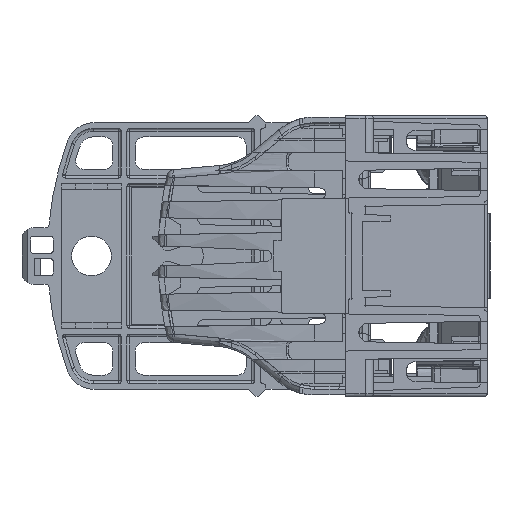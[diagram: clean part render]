
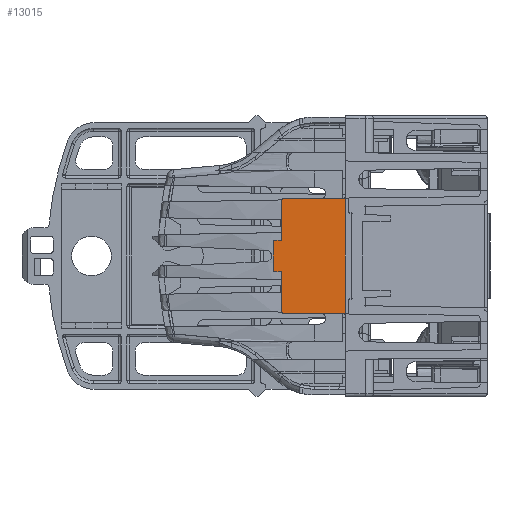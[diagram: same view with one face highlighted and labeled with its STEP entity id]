
A CAD part, left-side view. The second image highlights one B-rep face of the part: STEP entity #13015.
In plain terms, the highlighted planar face has unit normal (-1, 0, 0).
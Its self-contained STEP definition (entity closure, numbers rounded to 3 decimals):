
#13015 = ADVANCED_FACE ( 'NONE', ( #177543 ), #177671, .T. ) ;
#31062 = EDGE_CURVE ( 'NONE', #74775, #74731, #266365, .T. ) ;
#42917 = LINE ( 'NONE', #42919, #204172 ) ;
#42919 = CARTESIAN_POINT ( 'NONE',  ( -279.5, 22.4, 0. ) ) ;
#42920 = DIRECTION ( 'NONE',  ( 0., 0., 1. ) ) ;
#64866 = ORIENTED_EDGE ( 'NONE', *, *, #267993, .F. ) ;
#65138 = ORIENTED_EDGE ( 'NONE', *, *, #267975, .F. ) ;
#65759 = ORIENTED_EDGE ( 'NONE', *, *, #31062, .F. ) ;
#65797 = ORIENTED_EDGE ( 'NONE', *, *, #267627, .F. ) ;
#65983 = ORIENTED_EDGE ( 'NONE', *, *, #267476, .T. ) ;
#66063 = ORIENTED_EDGE ( 'NONE', *, *, #267472, .F. ) ;
#66291 = ORIENTED_EDGE ( 'NONE', *, *, #267540, .T. ) ;
#66321 = ORIENTED_EDGE ( 'NONE', *, *, #264284, .F. ) ;
#66332 = ORIENTED_EDGE ( 'NONE', *, *, #267685, .T. ) ;
#66436 = ORIENTED_EDGE ( 'NONE', *, *, #267664, .F. ) ;
#66480 = ORIENTED_EDGE ( 'NONE', *, *, #267450, .T. ) ;
#66544 = ORIENTED_EDGE ( 'NONE', *, *, #267440, .T. ) ;
#66676 = ORIENTED_EDGE ( 'NONE', *, *, #267429, .T. ) ;
#66722 = ORIENTED_EDGE ( 'NONE', *, *, #267592, .F. ) ;
#66779 = ORIENTED_EDGE ( 'NONE', *, *, #267466, .T. ) ;
#74731 = VERTEX_POINT ( 'NONE', #97498 ) ;
#74775 = VERTEX_POINT ( 'NONE', #97618 ) ;
#75643 = VERTEX_POINT ( 'NONE', #99967 ) ;
#75656 = VERTEX_POINT ( 'NONE', #99994 ) ;
#97498 = CARTESIAN_POINT ( 'NONE',  ( -279.5, 0., -20.896 ) ) ;
#97618 = CARTESIAN_POINT ( 'NONE',  ( -279.5, 0., 20.896 ) ) ;
#99967 = CARTESIAN_POINT ( 'NONE',  ( -279.5, 22.4, -6. ) ) ;
#99994 = CARTESIAN_POINT ( 'NONE',  ( -279.5, 22.4, -19.709 ) ) ;
#126498 = CARTESIAN_POINT ( 'NONE',  ( -279.5, 24.9, -5. ) ) ;
#126500 = DIRECTION ( 'NONE',  ( -1., 0., 0. ) ) ;
#126501 = DIRECTION ( 'NONE',  ( 0., 0., 1. ) ) ;
#126525 = LINE ( 'NONE', #126528, #187201 ) ;
#126528 = CARTESIAN_POINT ( 'NONE',  ( -279.5, 25.4, -5.5 ) ) ;
#126530 = DIRECTION ( 'NONE',  ( 0., -1., 0. ) ) ;
#126557 = CARTESIAN_POINT ( 'NONE',  ( -279.5, 22.9, -6. ) ) ;
#126559 = DIRECTION ( 'NONE',  ( 1., 0., 0. ) ) ;
#126561 = DIRECTION ( 'NONE',  ( 0., 0., 1. ) ) ;
#126594 = CARTESIAN_POINT ( 'NONE',  ( -279.5, 21.9, -19.709 ) ) ;
#126596 = DIRECTION ( 'NONE',  ( -1., 0., 0. ) ) ;
#126597 = DIRECTION ( 'NONE',  ( 0., 0., 1. ) ) ;
#126606 = LINE ( 'NONE', #126609, #187295 ) ;
#126609 = CARTESIAN_POINT ( 'NONE',  ( -279.5, 0., -20.4 ) ) ;
#126611 = DIRECTION ( 'NONE',  ( 0., 1., 0.009 ) ) ;
#126623 = CARTESIAN_POINT ( 'NONE',  ( -279.5, 0.5, -20.896 ) ) ;
#126624 = DIRECTION ( 'NONE',  ( 1., 0., 0. ) ) ;
#126626 = DIRECTION ( 'NONE',  ( 0., 0., 1. ) ) ;
#126787 = LINE ( 'NONE', #126790, #187495 ) ;
#126790 = CARTESIAN_POINT ( 'NONE',  ( -279.5, 22.4, 0. ) ) ;
#126792 = DIRECTION ( 'NONE',  ( 0., 0., -1. ) ) ;
#126868 = CARTESIAN_POINT ( 'NONE',  ( -279.5, 22.9, 6. ) ) ;
#126870 = DIRECTION ( 'NONE',  ( -1., 0., 0. ) ) ;
#126872 = DIRECTION ( 'NONE',  ( 0., 0., -1. ) ) ;
#126936 = LINE ( 'NONE', #126939, #187658 ) ;
#126939 = CARTESIAN_POINT ( 'NONE',  ( -279.5, 25.4, 5.5 ) ) ;
#126940 = DIRECTION ( 'NONE',  ( 0., -1., 0. ) ) ;
#127010 = CARTESIAN_POINT ( 'NONE',  ( -279.5, 24.9, 5. ) ) ;
#127012 = DIRECTION ( 'NONE',  ( 1., 0., 0. ) ) ;
#127014 = DIRECTION ( 'NONE',  ( 0., 0., -1. ) ) ;
#127050 = LINE ( 'NONE', #127053, #187723 ) ;
#127053 = CARTESIAN_POINT ( 'NONE',  ( -279.5, 0., 20.4 ) ) ;
#127055 = DIRECTION ( 'NONE',  ( 0., 1., -0.009 ) ) ;
#127087 = CARTESIAN_POINT ( 'NONE',  ( -279.5, 21.9, 19.709 ) ) ;
#127088 = DIRECTION ( 'NONE',  ( 1., 0., 0. ) ) ;
#127089 = DIRECTION ( 'NONE',  ( 0., 0., -1. ) ) ;
#127336 = CARTESIAN_POINT ( 'NONE',  ( -279.5, 0.5, 20.896 ) ) ;
#127337 = DIRECTION ( 'NONE',  ( -1., 0., 0. ) ) ;
#127338 = DIRECTION ( 'NONE',  ( 0., 0., -1. ) ) ;
#127350 = LINE ( 'NONE', #127351, #188201 ) ;
#127351 = CARTESIAN_POINT ( 'NONE',  ( -279.5, 25.4, -5.5 ) ) ;
#127352 = DIRECTION ( 'NONE',  ( 0., 0., 1. ) ) ;
#177543 = FACE_OUTER_BOUND ( 'NONE', #330230, .T. ) ;
#177671 = PLANE ( 'NONE',  #300148 ) ;
#177747 = CARTESIAN_POINT ( 'NONE',  ( -279.5, -50., 0. ) ) ;
#177753 = DIRECTION ( 'NONE',  ( -1., 0., 0. ) ) ;
#177757 = DIRECTION ( 'NONE',  ( 0., 0., 1. ) ) ;
#187154 = CIRCLE ( 'NONE', #187171, 0.5 ) ;
#187161 = CIRCLE ( 'NONE', #187325, 0.5 ) ;
#187171 = AXIS2_PLACEMENT_3D ( 'NONE', #126498, #126500, #126501 ) ;
#187201 = VECTOR ( 'NONE', #126530, 1000. ) ;
#187233 = CIRCLE ( 'NONE', #187245, 0.5 ) ;
#187245 = AXIS2_PLACEMENT_3D ( 'NONE', #126557, #126559, #126561 ) ;
#187274 = CIRCLE ( 'NONE', #187286, 0.5 ) ;
#187286 = AXIS2_PLACEMENT_3D ( 'NONE', #126594, #126596, #126597 ) ;
#187295 = VECTOR ( 'NONE', #126611, 1000. ) ;
#187325 = AXIS2_PLACEMENT_3D ( 'NONE', #126623, #126624, #126626 ) ;
#187495 = VECTOR ( 'NONE', #126792, 1000. ) ;
#187587 = CIRCLE ( 'NONE', #187590, 0.5 ) ;
#187590 = AXIS2_PLACEMENT_3D ( 'NONE', #126868, #126870, #126872 ) ;
#187658 = VECTOR ( 'NONE', #126940, 1000. ) ;
#187699 = CIRCLE ( 'NONE', #187711, 0.5 ) ;
#187711 = AXIS2_PLACEMENT_3D ( 'NONE', #127010, #127012, #127014 ) ;
#187723 = VECTOR ( 'NONE', #127055, 1000. ) ;
#187783 = CIRCLE ( 'NONE', #187791, 0.5 ) ;
#187791 = AXIS2_PLACEMENT_3D ( 'NONE', #127087, #127088, #127089 ) ;
#188127 = CIRCLE ( 'NONE', #188163, 0.5 ) ;
#188163 = AXIS2_PLACEMENT_3D ( 'NONE', #127336, #127337, #127338 ) ;
#188201 = VECTOR ( 'NONE', #127352, 1000. ) ;
#204172 = VECTOR ( 'NONE', #42920, 1000. ) ;
#239728 = ORIENTED_EDGE ( 'NONE', *, *, #267716, .F. ) ;
#252564 = CARTESIAN_POINT ( 'NONE',  ( -279.5, 25.4, -5. ) ) ;
#252571 = CARTESIAN_POINT ( 'NONE',  ( -279.5, 21.904, -20.209 ) ) ;
#252583 = CARTESIAN_POINT ( 'NONE',  ( -279.5, 24.9, -5.5 ) ) ;
#252585 = CARTESIAN_POINT ( 'NONE',  ( -279.5, 25.4, 5. ) ) ;
#252592 = CARTESIAN_POINT ( 'NONE',  ( -279.5, 22.9, 5.5 ) ) ;
#252595 = CARTESIAN_POINT ( 'NONE',  ( -279.5, 0.496, 20.396 ) ) ;
#252604 = CARTESIAN_POINT ( 'NONE',  ( -279.5, 22.4, 19.709 ) ) ;
#252609 = CARTESIAN_POINT ( 'NONE',  ( -279.5, 22.9, -5.5 ) ) ;
#252612 = CARTESIAN_POINT ( 'NONE',  ( -279.5, 0.496, -20.396 ) ) ;
#252615 = CARTESIAN_POINT ( 'NONE',  ( -279.5, 24.9, 5.5 ) ) ;
#252618 = CARTESIAN_POINT ( 'NONE',  ( -279.5, 21.904, 20.209 ) ) ;
#252624 = CARTESIAN_POINT ( 'NONE',  ( -279.5, 22.4, 6. ) ) ;
#264284 = EDGE_CURVE ( 'NONE', #75656, #75643, #42917, .T. ) ;
#266365 = LINE ( 'NONE', #266372, #272494 ) ;
#266372 = CARTESIAN_POINT ( 'NONE',  ( -279.5, 0., 0. ) ) ;
#266374 = DIRECTION ( 'NONE',  ( 0., 0., -1. ) ) ;
#267429 = EDGE_CURVE ( 'NONE', #325860, #325866, #187154, .T. ) ;
#267440 = EDGE_CURVE ( 'NONE', #325866, #325867, #126525, .T. ) ;
#267450 = EDGE_CURVE ( 'NONE', #325867, #75643, #187233, .T. ) ;
#267466 = EDGE_CURVE ( 'NONE', #75656, #325850, #187274, .T. ) ;
#267472 = EDGE_CURVE ( 'NONE', #325868, #325850, #126606, .T. ) ;
#267476 = EDGE_CURVE ( 'NONE', #325868, #74731, #187161, .T. ) ;
#267540 = EDGE_CURVE ( 'NONE', #325864, #325873, #126787, .T. ) ;
#267592 = EDGE_CURVE ( 'NONE', #325869, #325873, #187587, .T. ) ;
#267627 = EDGE_CURVE ( 'NONE', #325870, #325869, #126936, .T. ) ;
#267664 = EDGE_CURVE ( 'NONE', #325856, #325870, #187699, .T. ) ;
#267685 = EDGE_CURVE ( 'NONE', #325861, #325871, #127050, .T. ) ;
#267716 = EDGE_CURVE ( 'NONE', #325864, #325871, #187783, .T. ) ;
#267975 = EDGE_CURVE ( 'NONE', #325861, #74775, #188127, .T. ) ;
#267993 = EDGE_CURVE ( 'NONE', #325860, #325856, #127350, .T. ) ;
#272494 = VECTOR ( 'NONE', #266374, 1000. ) ;
#300148 = AXIS2_PLACEMENT_3D ( 'NONE', #177747, #177753, #177757 ) ;
#325850 = VERTEX_POINT ( 'NONE', #252571 ) ;
#325856 = VERTEX_POINT ( 'NONE', #252585 ) ;
#325860 = VERTEX_POINT ( 'NONE', #252564 ) ;
#325861 = VERTEX_POINT ( 'NONE', #252595 ) ;
#325864 = VERTEX_POINT ( 'NONE', #252604 ) ;
#325866 = VERTEX_POINT ( 'NONE', #252583 ) ;
#325867 = VERTEX_POINT ( 'NONE', #252609 ) ;
#325868 = VERTEX_POINT ( 'NONE', #252612 ) ;
#325869 = VERTEX_POINT ( 'NONE', #252592 ) ;
#325870 = VERTEX_POINT ( 'NONE', #252615 ) ;
#325871 = VERTEX_POINT ( 'NONE', #252618 ) ;
#325873 = VERTEX_POINT ( 'NONE', #252624 ) ;
#330230 = EDGE_LOOP ( 'NONE', ( #64866, #66676, #66544, #66480, #66321, #66779, #66063, #65983, #65759, #65138, #66332, #239728, #66291, #66722, #65797, #66436 ) ) ;
